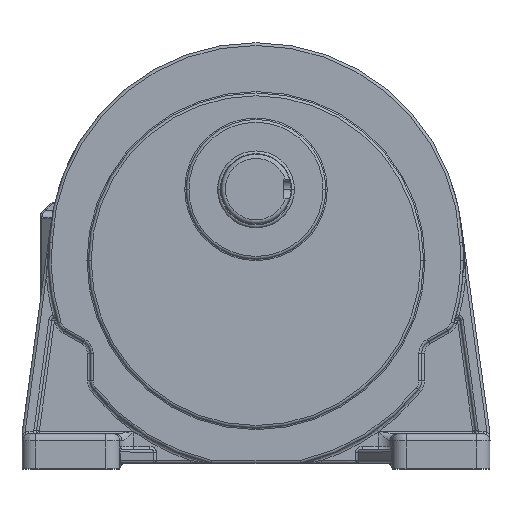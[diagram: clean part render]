
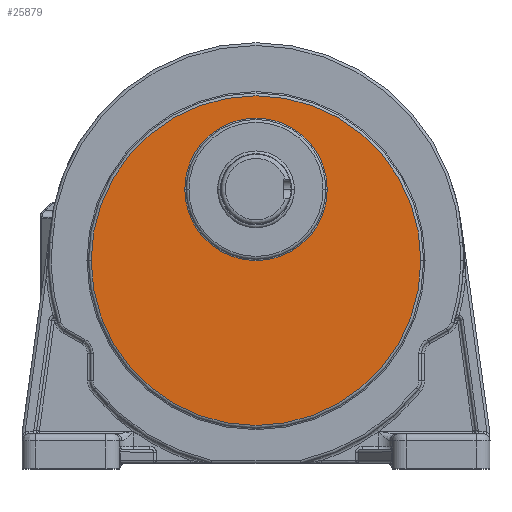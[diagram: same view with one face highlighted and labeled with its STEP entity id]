
A CAD part, top view. The second image highlights one B-rep face of the part: STEP entity #25879.
In plain terms, the highlighted planar face has unit normal (0, 0, 1).
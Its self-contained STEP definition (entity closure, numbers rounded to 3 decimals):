
#315 = CARTESIAN_POINT ( 'NONE',  ( 0., 0., 386.5 ) ) ;
#6985 = AXIS2_PLACEMENT_3D ( 'NONE', #17749, #45635, #73391 ) ;
#14584 = DIRECTION ( 'NONE',  ( 1., 0., 0. ) ) ;
#15812 = DIRECTION ( 'NONE',  ( -1., 0., 0. ) ) ;
#16426 = VERTEX_POINT ( 'NONE', #83759 ) ;
#16696 = CARTESIAN_POINT ( 'NONE',  ( 118., 0., 386.5 ) ) ;
#17749 = CARTESIAN_POINT ( 'NONE',  ( 0., 0., 386.5 ) ) ;
#18650 = VERTEX_POINT ( 'NONE', #16696 ) ;
#20680 = VERTEX_POINT ( 'NONE', #69750 ) ;
#20738 = AXIS2_PLACEMENT_3D ( 'NONE', #86897, #24446, #52300 ) ;
#21411 = PLANE ( 'NONE',  #25740 ) ;
#23187 = AXIS2_PLACEMENT_3D ( 'NONE', #315, #28122, #55955 ) ;
#24446 = DIRECTION ( 'NONE',  ( 0., 0., -1. ) ) ;
#25740 = AXIS2_PLACEMENT_3D ( 'NONE', #49283, #77033, #14584 ) ;
#25879 = ADVANCED_FACE ( 'NONE', ( #56108, #83882 ), #21411, .T. ) ;
#28122 = DIRECTION ( 'NONE',  ( 0., 0., -1. ) ) ;
#30668 = ORIENTED_EDGE ( 'NONE', *, *, #34967, .F. ) ;
#33565 = CIRCLE ( 'NONE', #84515, 51. ) ;
#34967 = EDGE_CURVE ( 'NONE', #16426, #18650, #46331, .T. ) ;
#45635 = DIRECTION ( 'NONE',  ( 0., 0., -1. ) ) ;
#45881 = EDGE_CURVE ( 'NONE', #18650, #16426, #62535, .T. ) ;
#46331 = CIRCLE ( 'NONE', #6985, 118. ) ;
#46673 = ORIENTED_EDGE ( 'NONE', *, *, #62812, .T. ) ;
#48896 = EDGE_LOOP ( 'NONE', ( #30668, #56411 ) ) ;
#49283 = CARTESIAN_POINT ( 'NONE',  ( 0., 0., 386.5 ) ) ;
#50507 = CARTESIAN_POINT ( 'NONE',  ( 0., 51., 386.5 ) ) ;
#51860 = EDGE_CURVE ( 'NONE', #20680, #82613, #33565, .T. ) ;
#52300 = DIRECTION ( 'NONE',  ( -1., 0., 0. ) ) ;
#55955 = DIRECTION ( 'NONE',  ( 1., 0., 0. ) ) ;
#56108 = FACE_OUTER_BOUND ( 'NONE', #48896, .T. ) ;
#56411 = ORIENTED_EDGE ( 'NONE', *, *, #45881, .F. ) ;
#60086 = CIRCLE ( 'NONE', #20738, 51. ) ;
#62535 = CIRCLE ( 'NONE', #23187, 118. ) ;
#62812 = EDGE_CURVE ( 'NONE', #20680, #82613, #60086, .T. ) ;
#69750 = CARTESIAN_POINT ( 'NONE',  ( -51., 50.979, 386.5 ) ) ;
#71389 = EDGE_LOOP ( 'NONE', ( #46673, #88317 ) ) ;
#73391 = DIRECTION ( 'NONE',  ( -1., 0., 0. ) ) ;
#77033 = DIRECTION ( 'NONE',  ( 0., 0., 1. ) ) ;
#78260 = DIRECTION ( 'NONE',  ( 0., 0., 1. ) ) ;
#82613 = VERTEX_POINT ( 'NONE', #87532 ) ;
#83759 = CARTESIAN_POINT ( 'NONE',  ( -118., 0., 386.5 ) ) ;
#83882 = FACE_BOUND ( 'NONE', #71389, .T. ) ;
#84515 = AXIS2_PLACEMENT_3D ( 'NONE', #50507, #78260, #15812 ) ;
#86897 = CARTESIAN_POINT ( 'NONE',  ( 0., 51., 386.5 ) ) ;
#87532 = CARTESIAN_POINT ( 'NONE',  ( 51., 51.021, 386.5 ) ) ;
#88317 = ORIENTED_EDGE ( 'NONE', *, *, #51860, .F. ) ;
